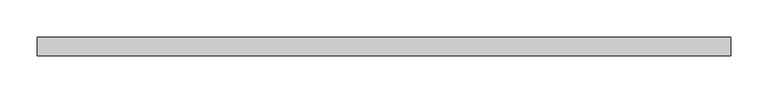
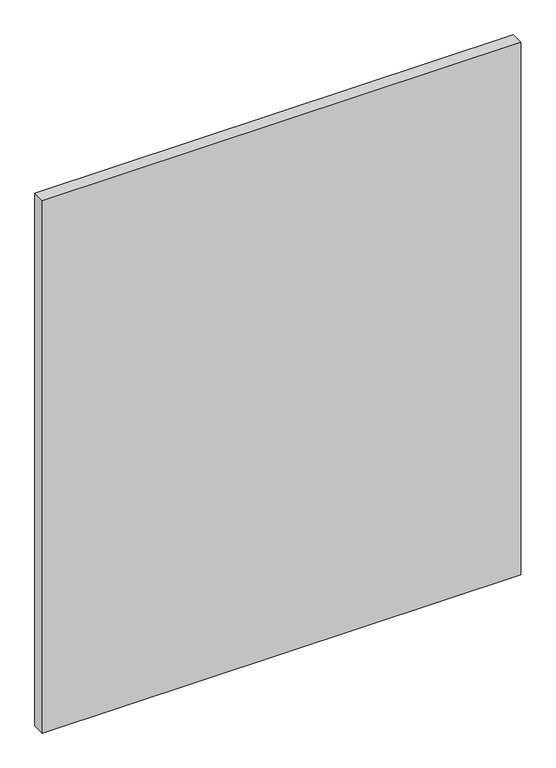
"""IFC4 building model written with IfcOpenShell, lengths in millimetres: plate geometry, 系統嵌板 : 有玻璃的."""

from ifc_helpers import new_model, si_unit, origin, origin_with_axes, place, context, project, spatial, polyline, outline, extrude, source, transform, mapped, element, save


def plate_65d05d4c(model_context):
    return source(origin(), model_context, "Body", "SweptSolid", [
        extrude(outline(polyline([(467.5, 24.5), (-467.5, 24.5), (-467.5, 49.5), (467.5, 49.5), (467.5, 24.5)])), origin_with_axes(), (0.0, 0.0, 1.0), 1099.8779336),
    ])


if __name__ == "__main__":
    model = new_model("IFC4")
    model_context = context("Model", 3, world=origin())
    ifc_project = project(units=[si_unit("LENGTHUNIT", "METRE", prefix="MILLI")], contexts=[model_context])
    site = spatial("IfcSite", under=ifc_project)
    building = spatial("IfcBuilding", under=site)
    placement = place(None, origin())
    plate_shape = plate_65d05d4c(model_context)
    element("IfcPlate", 1, ObjectType="系統嵌板 : 有玻璃的", at=placement, inside=building, context=model_context, shape_type="MappedRepresentation", body=[
        mapped(plate_shape, transform((0.0, 0.0, 0.0), x_axis=(1.0, 0.0, 0.0), y_axis=(0.0, 1.0, 0.0), z_axis=(0.0, 0.0, 1.0))),
    ])
    save(model, "model.ifc")
